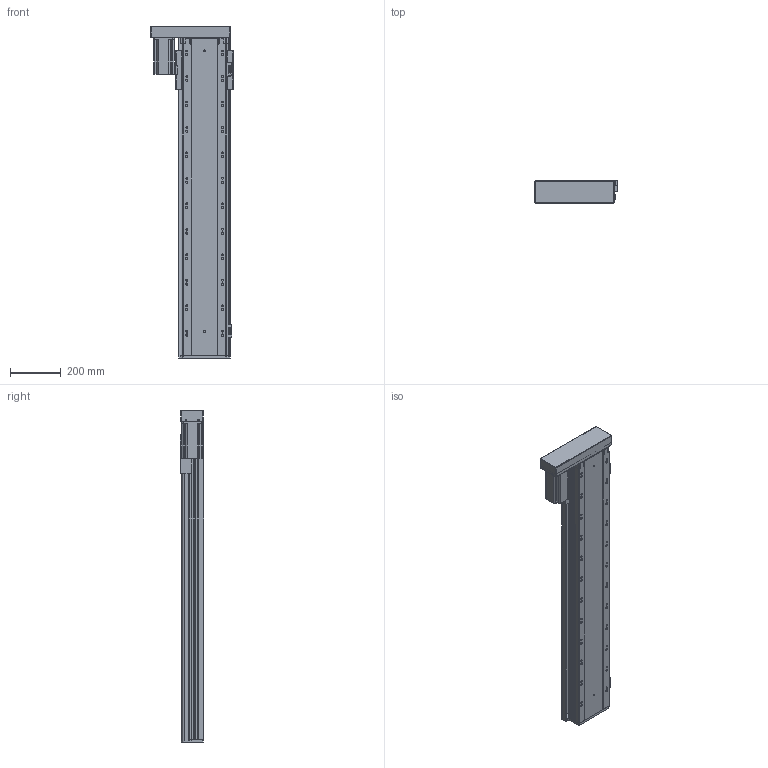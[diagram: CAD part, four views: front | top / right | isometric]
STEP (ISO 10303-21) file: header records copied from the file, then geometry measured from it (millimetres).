
FILE_DESCRIPTION (( 'STEP AP203' ), '1' );
FILE_NAME ('RY170FB-L2020-300-LK.SLDASM_1000.step', '2021-02-23T03:02:59', ( '盈信电脑' ), ( '东莞市道滘镇水果街19号' ), 'SwSTEP 2.0', 'SolidWorks 2012', '' );
FILE_SCHEMA (( 'CONFIG_CONTROL_DESIGN' ));
Length unit declared in the file: millimetre
Products named in the file (16): RY170FB-L2020-300-LK.SLDASM_1000; RY170FB-酘衵殏萇儂欶750W; RY170FB-左右折电机安装板750W; RY140FB-674嫖萇覜茼え; RY140-674嫖萇耀輸; RY140直线电机感应器674光电安装座; RY170FB-300蛌殏奻裔-LK_1000; 覜茼ん674; RY170FB-转折电机端支撑座(7002); RY170FB-綴裔啣; 怢湛750W萇儂ㄗ80遺ㄘ; RY170FB-铝滑块(25丝杆）; 滅袉蝶18-10; RY170FB-300蛌殏倰第菁釱-LK_1000; 滅袉蝶18-28
Assembly tree (18 placements, depth 3):
  RY170FB-L2020-300-LK.SLDASM_1000
    RY170FB-300蛌殏倰第菁釱-LK_1000
    滅袉蝶18-28
    滅袉蝶18-10
    RY170FB-转折电机端支撑座(7002)
    怢湛750W萇儂ㄗ80遺ㄘ
    RY170FB-铝滑块(25丝杆）
    RY170FB-綴裔啣
    RY170FB-300蛌殏奻裔-LK_1000
    RY140-674嫖萇耀輸
      覜茼ん674  x2
      RY140直线电机感应器674光电安装座
    RY140-674嫖萇耀輸
      覜茼ん674
      RY140直线电机感应器674光电安装座
    RY140FB-674嫖萇覜茼え
    RY170FB-左右折电机安装板750W
    RY170FB-酘衵殏萇儂欶750W
Bounding box: 323.95 x 90.5 x 1302.7 mm (x, y, z)
Volume: 7903588.4 mm3; surface area: 2317626.7 mm2
Topology: 16 solids, 16 shells, 1749 faces, 5078 edges, 3226 vertices
Faces by surface type: cylinder 965, plane 600, cone 176, bspline 8
Entity records: 57767 total; most frequent: CARTESIAN_POINT 14765, ORIENTED_EDGE 8856, DIRECTION 8368, EDGE_CURVE 4428, AXIS2_PLACEMENT_3D 3071, VERTEX_POINT 2906, LINE 2226, VECTOR 2226
